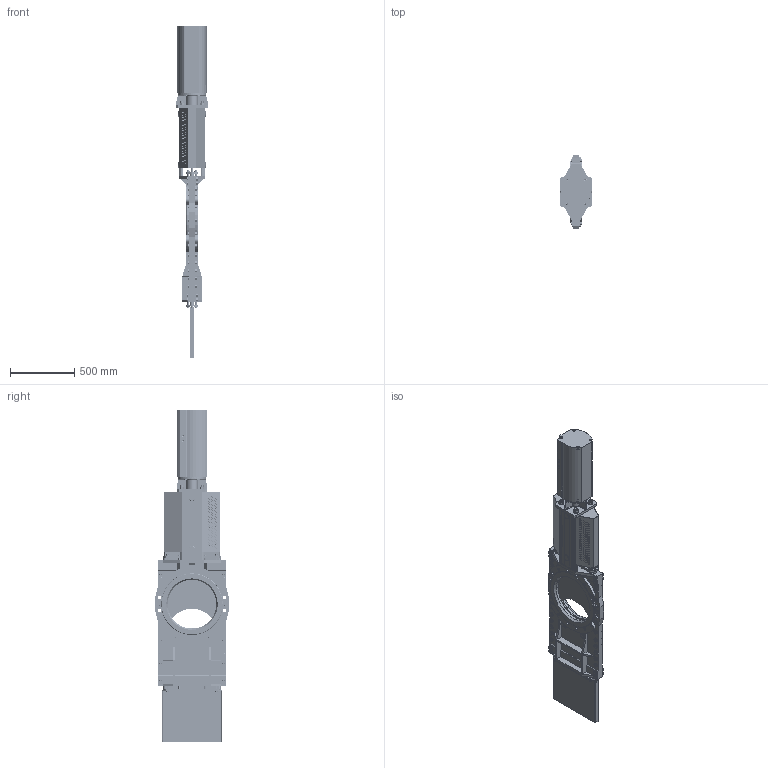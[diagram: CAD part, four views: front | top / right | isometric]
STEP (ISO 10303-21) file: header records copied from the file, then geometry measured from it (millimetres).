
FILE_DESCRIPTION(('STEP AP203'),'1');
FILE_NAME('F:/Alexander/CYLSAM/2D-3D/HG/400/HG-DN400-EC200.stp','2012-11-29T09:07:40',(' '),(' '),'Spatial InterOp 3D',' ',' ');
FILE_SCHEMA(('CONFIG_CONTROL_DESIGN'));
Length unit declared in the file: millimetre
Products named in the file (5): 1; 2; 3; 4; 5
Bounding box: 255 x 570 x 2582.63 mm (x, y, z)
Volume: 60759350.8 mm3; surface area: 7078691.8 mm2
Topology: 5 solids, 89 shells, 4468 faces, 10859 edges, 6885 vertices
Faces by surface type: plane 1785, cylinder 1555, cone 1076, torus 52
Entity records: 134366 total; most frequent: CARTESIAN_POINT 30081, DIRECTION 22420, ORIENTED_EDGE 21670, EDGE_CURVE 10835, AXIS2_PLACEMENT_3D 8934, VERTEX_POINT 6885, EDGE_LOOP 5282, LINE 4552
